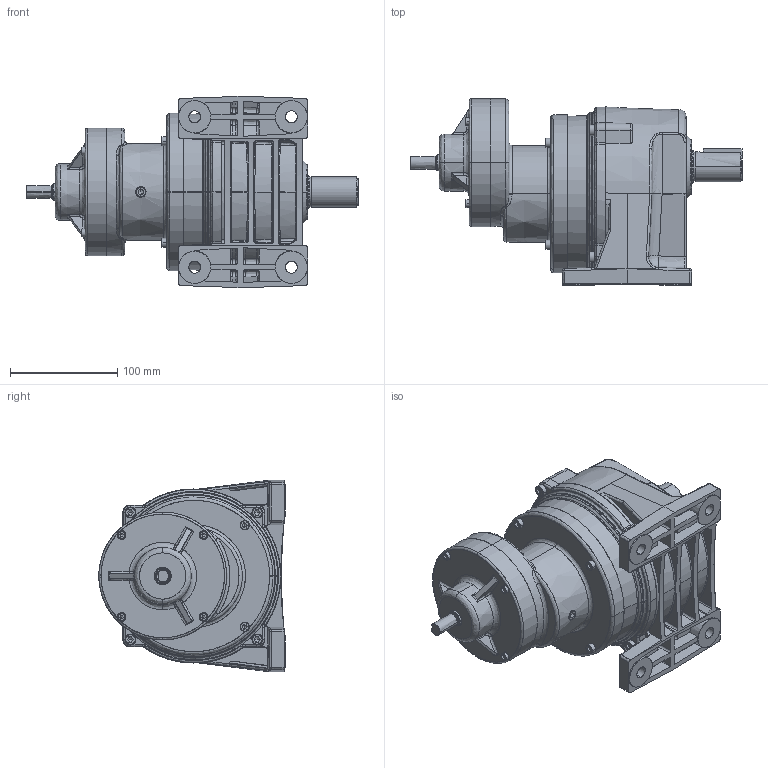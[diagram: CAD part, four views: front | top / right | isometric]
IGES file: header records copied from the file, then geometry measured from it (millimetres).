
Start section: SolidWorks IGES file using analytic representation for surfaces
Bounding box: 309 x 173.5 x 178.19 mm (x, y, z)
Surface area: 347822.9 mm2 (no closed solid volume)
Topology: 0 solids, 0 shells, 1083 faces, 13672 edges, 13635 vertices
Faces by surface type: bspline 641, revolution 442
